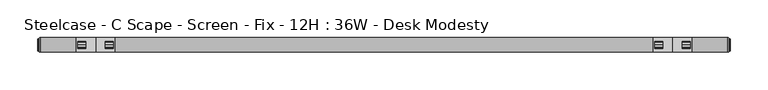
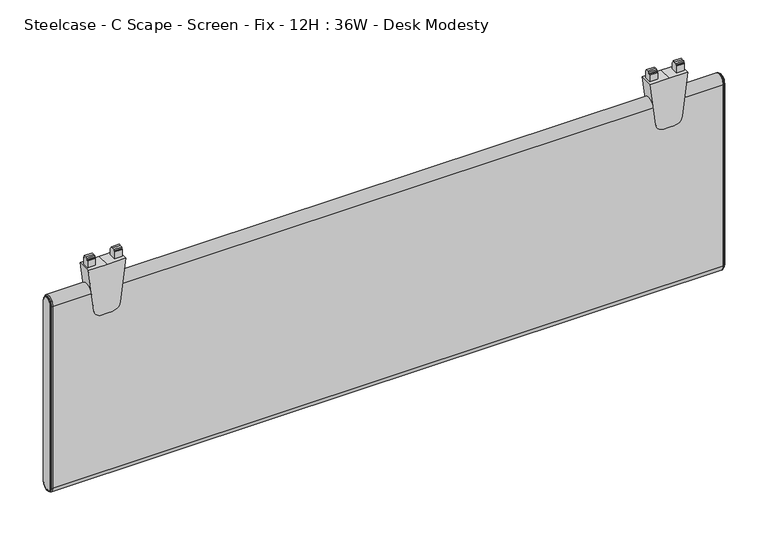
"""IFC4 building model written with IfcOpenShell, lengths in millimetres: furniture geometry, Steelcase - C Scape - Screen - Fix - 12H : 36W - Desk Modesty."""

from ifc_helpers import new_model, si_unit, point, frame, frame_2d, origin, place, context, project, spatial, polyline, circle_curve, ellipse_curve, trimmed, segment, composite_curve, outline, extrude, source, transform, mapped, element, save
from ifc_brep_helpers import plane_surface, cylinder_surface, revolved_surface, advanced_brep


def steelcase_c_scape_screen_fix_12h_36w_desk_modesty_49f25b2f(model_context):
    return source(origin(), model_context, "Body", "SolidModel", [
        extrude(outline(composite_curve([segment(polyline([(703.414888, 101.4730434), (703.414888, 76.2001674), (703.414888, 50.9272915), (643.0897579, 58.3341853)]), True, "CONTINUOUS"), segment(trimmed(circle_curve(frame_2d((644.4116282, 69.1001018)), 10.8467645), [point((643.0897579, 58.3341853))], [point((633.5648638, 69.1001018))], False, "CARTESIAN"), True, "CONTINUOUS"), segment(polyline([(633.5648638, 69.1001018), (633.5648638, 76.2001674), (633.5648638, 83.300233)]), True, "CONTINUOUS"), segment(trimmed(circle_curve(frame_2d((644.4116282, 83.300233)), 10.8467645), [point((633.5648638, 83.300233))], [point((643.0897579, 94.0661495))], False, "CARTESIAN"), True, "CONTINUOUS"), segment(polyline([(643.0897579, 94.0661495), (703.414888, 101.4730434)]), True, "CONTINUOUS")], self_intersect=False)), frame((0.0, -9.525, 0.0), z_axis=(0.0, 1.0, 0.0), x_axis=(0.0, 0.0, 1.0)), (0.0, 0.0, 1.0), 19.05),
        extrude(outline(polyline([(-4.5465975, 703.414888), (-4.5465975, 713.3208967), (-4.0139265, 714.2073252), (-2.9972008, 714.2073252), (-2.9972008, 716.4425812), (0.0, 716.534), (2.9972008, 716.4425812), (2.9972008, 714.2073252), (4.0139265, 714.2073252), (4.5465975, 713.3208967), (4.5465975, 703.414888), (0.0, 703.414888), (-4.5465975, 703.414888)])), frame((88.9267162, 0.0, 0.0), z_axis=(1.0, 0.0, 0.0), x_axis=(0.0, 1.0, 0.0)), (0.0, 0.0, 1.0), 10.7813187),
        extrude(outline(polyline([(-4.5465975, 703.414888), (-4.5465975, 713.3208967), (-4.0139265, 714.2073252), (-2.9972008, 714.2073252), (-2.9972008, 716.4425812), (0.0, 716.534), (2.9972008, 716.4425812), (2.9972008, 714.2073252), (4.0139265, 714.2073252), (4.5465975, 713.3208967), (4.5465975, 703.414888), (0.0, 703.414888), (-4.5465975, 703.414888)])), frame((52.6923, 0.0, 0.0), z_axis=(1.0, 0.0, 0.0), x_axis=(0.0, 1.0, 0.0)), (0.0, 0.0, 1.0), 10.7813187),
        extrude(outline(composite_curve([segment(polyline([(703.414888, 862.7107132), (703.414888, 837.4378372), (703.414888, 812.1649612), (643.0897579, 819.5718551)]), True, "CONTINUOUS"), segment(trimmed(circle_curve(frame_2d((644.4116282, 830.3377716)), 10.8467645), [point((643.0897579, 819.5718551))], [point((633.5648638, 830.3377716))], False, "CARTESIAN"), True, "CONTINUOUS"), segment(polyline([(633.5648638, 830.3377716), (633.5648638, 837.4378372), (633.5648638, 844.5379028)]), True, "CONTINUOUS"), segment(trimmed(circle_curve(frame_2d((644.4116282, 844.5379028)), 10.8467645), [point((633.5648638, 844.5379028))], [point((643.0897579, 855.3038193))], False, "CARTESIAN"), True, "CONTINUOUS"), segment(polyline([(643.0897579, 855.3038193), (703.414888, 862.7107132)]), True, "CONTINUOUS")], self_intersect=False)), frame((0.0, -9.525, 0.0), z_axis=(0.0, 1.0, 0.0), x_axis=(0.0, 0.0, 1.0)), (0.0, 0.0, 1.0), 19.05),
        extrude(outline(polyline([(-4.5465975, 703.414888), (-4.5465975, 713.3208967), (-4.0139265, 714.2073252), (-2.9972008, 714.2073252), (-2.9972008, 716.4425812), (0.0, 716.534), (2.9972008, 716.4425812), (2.9972008, 714.2073252), (4.0139265, 714.2073252), (4.5465975, 713.3208967), (4.5465975, 703.414888), (0.0, 703.414888), (-4.5465975, 703.414888)])), frame((850.164386, 0.0, 0.0), z_axis=(1.0, 0.0, 0.0), x_axis=(0.0, 1.0, 0.0)), (0.0, 0.0, 1.0), 10.7813187),
        extrude(outline(polyline([(-4.5465975, 703.414888), (-4.5465975, 713.3208967), (-4.0139265, 714.2073252), (-2.9972008, 714.2073252), (-2.9972008, 716.4425812), (0.0, 716.534), (2.9972008, 716.4425812), (2.9972008, 714.2073252), (4.0139265, 714.2073252), (4.5465975, 713.3208967), (4.5465975, 703.414888), (0.0, 703.414888), (-4.5465975, 703.414888)])), frame((813.9299698, 0.0, 0.0), z_axis=(1.0, 0.0, 0.0), x_axis=(0.0, 1.0, 0.0)), (0.0, 0.0, 1.0), 10.7813187),
        advanced_brep(
        [(910.8486613, -9.525, 668.909), (910.8486613, 9.525, 668.909), (910.8486613, 9.525, 408.559), (910.8486613, -9.525, 408.559), (913.6426613, 7.4929583, 668.909), (913.6426613, -7.4929583, 668.909), (913.6426613, -7.4929583, 408.559), (913.6426613, 7.4929583, 408.559), (913.1346545, -8.0009651, 668.909), (913.1346545, 8.0009651, 668.909), (911.8646613, 8.0009651, 668.909), (911.8646613, -8.0009651, 668.909), (911.8646613, -8.8204932, 668.909), (911.8646613, 8.8204932, 668.909), (911.8646613, -8.0009651, 408.559), (913.1346545, -8.0009651, 408.559), (911.8646613, -8.8204932, 408.559), (911.8646613, 8.0009651, 408.559), (913.1346545, 8.0009651, 408.559), (911.8646613, 8.8204932, 408.559)],
        [
            (0, 1, circle_curve(frame((910.8486613, 0.0, 668.909), z_axis=(-1.0, 0.0, 0.0), x_axis=(0.0, 1.0, 0.0)), 9.525)),
            (1, 2),
            (2, 3, circle_curve(frame((910.8486613, 0.0, 408.559), z_axis=(-1.0, 0.0, 0.0), x_axis=(0.0, -1.0, 0.0)), 9.525)),
            (3, 0),
            (4, 5, circle_curve(frame((913.6426613, 0.0, 668.909), z_axis=(1.0, 0.0, 0.0), x_axis=(0.0, 1.0, 0.0)), 7.4929583)),
            (5, 6),
            (6, 7, circle_curve(frame((913.6426613, 0.0, 408.559), z_axis=(1.0, 0.0, 0.0), x_axis=(0.0, -1.0, 0.0)), 7.4929583)),
            (7, 4),
            (8, 9, circle_curve(frame((913.1346545, 0.0, 668.909), z_axis=(-1.0, 0.0, 0.0), x_axis=(0.0, 1.0, 0.0)), 8.0009651)),
            (9, 10),
            (10, 11, circle_curve(frame((911.8646613, 0.0, 668.909), z_axis=(1.0, 0.0, 0.0), x_axis=(0.0, 1.0, 0.0)), 8.0009651)),
            (11, 8),
            (8, 5, circle_curve(frame((913.1346545, -7.4929583, 668.909), z_axis=(0.0, 0.0, 1.0), x_axis=(0.0, -1.0, 0.0)), 0.5080068)),
            (4, 9, circle_curve(frame((913.1346545, 7.4929583, 668.909), z_axis=(0.0, 0.0, 1.0), x_axis=(0.0, 1.0, 0.0)), 0.5080068)),
            (12, 13, circle_curve(frame((911.8646613, 0.0, 668.909), z_axis=(-1.0, 0.0, 0.0), x_axis=(0.0, 1.0, 0.0)), 8.8204932)),
            (13, 1, circle_curve(frame((910.7806211, 8.3420139, 668.909), z_axis=(0.0, 0.0, 1.0), x_axis=(0.0, 1.0, 0.0)), 1.1849411)),
            (0, 12, circle_curve(frame((910.7806211, -8.3420139, 668.909), z_axis=(0.0, 0.0, 1.0), x_axis=(0.0, -1.0, 0.0)), 1.1849411)),
            (11, 14),
            (14, 15),
            (15, 8),
            (15, 6, circle_curve(frame((913.1346545, -7.4929583, 408.559), z_axis=(0.0, 0.0, 1.0), x_axis=(0.0, -1.0, 0.0)), 0.5080068)),
            (3, 16, circle_curve(frame((910.7806211, -8.3420139, 408.559), z_axis=(0.0, 0.0, 1.0), x_axis=(0.0, -1.0, 0.0)), 1.1849411)),
            (16, 12),
            (14, 17, circle_curve(frame((911.8646613, 0.0, 408.559), z_axis=(1.0, 0.0, 0.0), x_axis=(0.0, -1.0, 0.0)), 8.0009651)),
            (17, 18),
            (18, 15, circle_curve(frame((913.1346545, 0.0, 408.559), z_axis=(-1.0, 0.0, 0.0), x_axis=(0.0, -1.0, 0.0)), 8.0009651)),
            (18, 7, circle_curve(frame((913.1346545, 7.4929583, 408.559), z_axis=(0.0, 0.0, -1.0), x_axis=(0.0, 1.0, 0.0)), 0.5080068)),
            (2, 19, circle_curve(frame((910.7806211, 8.3420139, 408.559), z_axis=(0.0, 0.0, -1.0), x_axis=(0.0, 1.0, 0.0)), 1.1849411)),
            (19, 16, circle_curve(frame((911.8646613, 0.0, 408.559), z_axis=(-1.0, 0.0, 0.0), x_axis=(0.0, -1.0, 0.0)), 8.8204932)),
            (9, 18),
            (17, 10),
            (13, 19),
        ],
        [
            plane_surface(frame((910.8486613, -6.3509705, 668.909), z_axis=(-1.0, 0.0, 0.0), x_axis=(0.0, 0.0, 1.0))),
            plane_surface(frame((913.6426613, -6.3509705, 668.909), z_axis=(1.0, 0.0, 0.0), x_axis=(0.0, 0.0, -1.0))),
            cylinder_surface(frame((910.8486613, 0.0, 668.909), z_axis=(1.0, 0.0, 0.0), x_axis=(0.0, 1.0, 0.0)), 8.0009651),
            revolved_surface(trimmed(ellipse_curve(frame((913.1346545, 7.4929583, 668.909), z_axis=(0.0, 0.0, -1.0), x_axis=(0.0, 1.0, 0.0)), 0.5080068, 0.5080068), [point((913.1346545, 8.0009651, 668.909))], [point((913.6426613, 7.4929583, 668.909))], True, "CARTESIAN"), (910.8486613, 0.0, 668.909), (1.0, 0.0, 0.0)),
            revolved_surface(trimmed(ellipse_curve(frame((910.7806211, 8.3420139, 668.909), z_axis=(0.0, 0.0, -1.0), x_axis=(0.0, 1.0, 0.0)), 1.1849411, 1.1849411), [point((910.8486613, 9.525, 668.909))], [point((911.8646613, 8.8204932, 668.909))], True, "CARTESIAN"), (910.8486613, 0.0, 668.909), (1.0, 0.0, 0.0)),
            plane_surface(frame((911.8646613, -8.0009651, 668.909), z_axis=(0.0, -1.0, 0.0), x_axis=(0.0, 0.0, -1.0))),
            cylinder_surface(frame((913.1346545, -7.4929583, 668.909), z_axis=(0.0, 0.0, 1.0), x_axis=(0.0, -1.0, 0.0)), 0.5080068),
            cylinder_surface(frame((910.7806211, -8.3420139, 668.909), z_axis=(0.0, 0.0, 1.0), x_axis=(0.0, -1.0, 0.0)), 1.1849411),
            cylinder_surface(frame((910.8486613, 0.0, 408.559), z_axis=(1.0, 0.0, 0.0), x_axis=(0.0, -1.0, 0.0)), 8.0009651),
            revolved_surface(trimmed(ellipse_curve(frame((913.1346545, -7.4929583, 408.559), z_axis=(0.0, 0.0, 1.0), x_axis=(0.0, -1.0, 0.0)), 0.5080068, 0.5080068), [point((913.1346545, -8.0009651, 408.559))], [point((913.6426613, -7.4929583, 408.559))], True, "CARTESIAN"), (910.8486613, 0.0, 408.559), (1.0, 0.0, 0.0)),
            revolved_surface(trimmed(ellipse_curve(frame((910.7806211, -8.3420139, 408.559), z_axis=(0.0, 0.0, 1.0), x_axis=(0.0, -1.0, 0.0)), 1.1849411, 1.1849411), [point((910.8486613, -9.525, 408.559))], [point((911.8646613, -8.8204932, 408.559))], True, "CARTESIAN"), (910.8486613, 0.0, 408.559), (1.0, 0.0, 0.0)),
            plane_surface(frame((911.8646613, 8.0009651, 408.559), z_axis=(0.0, 1.0, 0.0), x_axis=(0.0, 0.0, 1.0))),
            cylinder_surface(frame((913.1346545, 7.4929583, 408.559), z_axis=(0.0, 0.0, -1.0), x_axis=(0.0, 1.0, 0.0)), 0.5080068),
            cylinder_surface(frame((910.7806211, 8.3420139, 408.559), z_axis=(0.0, 0.0, -1.0), x_axis=(0.0, 1.0, 0.0)), 1.1849411),
            plane_surface(frame((911.8646613, 8.8204932, 408.559), z_axis=(1.0, 0.0, 0.0), x_axis=(0.0, 0.0, 1.0))),
        ],
        [
            (0, [[1, 2, 3, 4]]),
            (1, [[5, 6, 7, 8]]),
            (2, [[9, 10, 11, 12]]),
            (3, [[-9, 13, -5, 14]]),
            (4, [[15, 16, -1, 17]]),
            (5, [[-12, 18, 19, 20]]),
            (6, [[-13, -20, 21, -6]]),
            (7, [[-17, -4, 22, 23]]),
            (8, [[-19, 24, 25, 26]]),
            (9, [[-21, -26, 27, -7]]),
            (10, [[-22, -3, 28, 29]]),
            (11, [[-10, 30, -25, 31]]),
            (12, [[-14, -8, -27, -30]]),
            (13, [[-16, 32, -28, -2]]),
            (14, [[-15, -23, -29, -32], [-11, -31, -24, -18]]),
        ],
    ),
        advanced_brep(
        [(2.7940155, 9.525, 668.909), (2.7940155, -9.525, 668.909), (2.7940155, -9.525, 408.559), (2.7940155, 9.525, 408.559), (0.0, -7.4929583, 668.909), (0.0, 7.4929583, 668.909), (0.0, 7.4929583, 408.559), (0.0, -7.4929583, 408.559), (1.778, 8.8204932, 668.909), (1.778, -8.8204932, 668.909), (0.5080068, -8.0009651, 668.909), (0.5080068, 8.0009651, 668.909), (1.778, -8.0009651, 668.909), (1.778, 8.0009651, 668.909), (1.778, -8.8204932, 408.559), (0.5080068, -8.0009651, 408.559), (1.778, -8.0009651, 408.559), (1.778, 8.8204932, 408.559), (0.5080068, 8.0009651, 408.559), (1.778, 8.0009651, 408.559)],
        [
            (0, 1, circle_curve(frame((2.7940155, 0.0, 668.909), z_axis=(1.0, 0.0, 0.0), x_axis=(0.0, 1.0, 0.0)), 9.525)),
            (1, 2),
            (2, 3, circle_curve(frame((2.7940155, 0.0, 408.559), z_axis=(1.0, 0.0, 0.0), x_axis=(0.0, -1.0, 0.0)), 9.525)),
            (3, 0),
            (4, 5, circle_curve(frame((0.0, 0.0, 668.909), z_axis=(-1.0, 0.0, 0.0), x_axis=(0.0, 1.0, 0.0)), 7.4929583)),
            (5, 6),
            (6, 7, circle_curve(frame((0.0, 0.0, 408.559), z_axis=(-1.0, 0.0, 0.0), x_axis=(0.0, -1.0, 0.0)), 7.4929583)),
            (7, 4),
            (0, 8, circle_curve(frame((2.8620402, 8.3420139, 668.909), z_axis=(0.0, 0.0, 1.0), x_axis=(0.0, -1.0, 0.0)), 1.1849411)),
            (8, 9, circle_curve(frame((1.778, 0.0, 668.909), z_axis=(1.0, 0.0, 0.0), x_axis=(0.0, 1.0, 0.0)), 8.8204932)),
            (9, 1, circle_curve(frame((2.8620402, -8.3420139, 668.909), z_axis=(0.0, 0.0, 1.0), x_axis=(0.0, 1.0, 0.0)), 1.1849411)),
            (10, 11, circle_curve(frame((0.5080068, 0.0, 668.909), z_axis=(-1.0, 0.0, 0.0), x_axis=(0.0, 1.0, 0.0)), 8.0009651)),
            (11, 5, circle_curve(frame((0.5080068, 7.4929583, 668.909), z_axis=(0.0, 0.0, 1.0), x_axis=(0.0, -1.0, 0.0)), 0.5080068)),
            (4, 10, circle_curve(frame((0.5080068, -7.4929583, 668.909), z_axis=(0.0, 0.0, 1.0), x_axis=(0.0, 1.0, 0.0)), 0.5080068)),
            (10, 12),
            (12, 13, circle_curve(frame((1.778, 0.0, 668.909), z_axis=(-1.0, 0.0, 0.0), x_axis=(0.0, 1.0, 0.0)), 8.0009651)),
            (13, 11),
            (9, 14),
            (14, 2, circle_curve(frame((2.8620402, -8.3420139, 408.559), z_axis=(0.0, 0.0, 1.0), x_axis=(0.0, 1.0, 0.0)), 1.1849411)),
            (7, 15, circle_curve(frame((0.5080068, -7.4929583, 408.559), z_axis=(0.0, 0.0, 1.0), x_axis=(0.0, 1.0, 0.0)), 0.5080068)),
            (15, 10),
            (15, 16),
            (16, 12),
            (14, 17, circle_curve(frame((1.778, 0.0, 408.559), z_axis=(1.0, 0.0, 0.0), x_axis=(0.0, -1.0, 0.0)), 8.8204932)),
            (17, 3, circle_curve(frame((2.8620402, 8.3420139, 408.559), z_axis=(0.0, 0.0, -1.0), x_axis=(0.0, -1.0, 0.0)), 1.1849411)),
            (6, 18, circle_curve(frame((0.5080068, 7.4929583, 408.559), z_axis=(0.0, 0.0, -1.0), x_axis=(0.0, -1.0, 0.0)), 0.5080068)),
            (18, 15, circle_curve(frame((0.5080068, 0.0, 408.559), z_axis=(-1.0, 0.0, 0.0), x_axis=(0.0, -1.0, 0.0)), 8.0009651)),
            (18, 19),
            (19, 16, circle_curve(frame((1.778, 0.0, 408.559), z_axis=(-1.0, 0.0, 0.0), x_axis=(0.0, -1.0, 0.0)), 8.0009651)),
            (8, 17),
            (19, 13),
            (11, 18),
        ],
        [
            plane_surface(frame((2.7940155, -6.3509705, 668.909), z_axis=(1.0, 0.0, 0.0), x_axis=(0.0, 0.0, -1.0))),
            plane_surface(frame((0.0, -6.3509705, 668.909), z_axis=(-1.0, 0.0, 0.0), x_axis=(0.0, 0.0, 1.0))),
            revolved_surface(trimmed(ellipse_curve(frame((2.8620402, 8.3420139, 668.909), z_axis=(0.0, 0.0, -1.0), x_axis=(0.0, -1.0, 0.0)), 1.1849411, 1.1849411), [point((1.778, 8.8204932, 668.909))], [point((2.794, 9.525, 668.909))], True, "CARTESIAN"), (2.794, 0.0, 668.909), (1.0, 0.0, 0.0)),
            revolved_surface(trimmed(ellipse_curve(frame((0.5080068, 7.4929583, 668.909), z_axis=(0.0, 0.0, -1.0), x_axis=(0.0, -1.0, 0.0)), 0.5080068, 0.5080068), [point((0.0, 7.4929583, 668.909))], [point((0.5080068, 8.0009651, 668.909))], True, "CARTESIAN"), (2.794, 0.0, 668.909), (1.0, 0.0, 0.0)),
            cylinder_surface(frame((2.794, 0.0, 668.909), z_axis=(1.0, 0.0, 0.0), x_axis=(0.0, 1.0, 0.0)), 8.0009651),
            cylinder_surface(frame((2.8620402, -8.3420139, 668.909), z_axis=(0.0, 0.0, 1.0), x_axis=(0.0, 1.0, 0.0)), 1.1849411),
            cylinder_surface(frame((0.5080068, -7.4929583, 668.909), z_axis=(0.0, 0.0, 1.0), x_axis=(0.0, 1.0, 0.0)), 0.5080068),
            plane_surface(frame((0.5080068, -8.0009651, 668.909), z_axis=(0.0, -1.0, 0.0), x_axis=(0.0, 0.0, -1.0))),
            revolved_surface(trimmed(ellipse_curve(frame((2.8620402, -8.3420139, 408.559), z_axis=(0.0, 0.0, 1.0), x_axis=(0.0, 1.0, 0.0)), 1.1849411, 1.1849411), [point((1.778, -8.8204932, 408.559))], [point((2.794, -9.525, 408.559))], True, "CARTESIAN"), (2.794, 0.0, 408.559), (1.0, 0.0, 0.0)),
            revolved_surface(trimmed(ellipse_curve(frame((0.5080068, -7.4929583, 408.559), z_axis=(0.0, 0.0, 1.0), x_axis=(0.0, 1.0, 0.0)), 0.5080068, 0.5080068), [point((0.0, -7.4929583, 408.559))], [point((0.5080068, -8.0009651, 408.559))], True, "CARTESIAN"), (2.794, 0.0, 408.559), (1.0, 0.0, 0.0)),
            cylinder_surface(frame((2.794, 0.0, 408.559), z_axis=(1.0, 0.0, 0.0), x_axis=(0.0, -1.0, 0.0)), 8.0009651),
            plane_surface(frame((1.778, 8.0009651, 408.559), z_axis=(-1.0, 0.0, 0.0), x_axis=(0.0, 0.0, 1.0))),
            cylinder_surface(frame((2.8620402, 8.3420139, 408.559), z_axis=(0.0, 0.0, -1.0), x_axis=(0.0, -1.0, 0.0)), 1.1849411),
            cylinder_surface(frame((0.5080068, 7.4929583, 408.559), z_axis=(0.0, 0.0, -1.0), x_axis=(0.0, -1.0, 0.0)), 0.5080068),
            plane_surface(frame((0.5080068, 8.0009651, 408.559), z_axis=(0.0, 1.0, 0.0), x_axis=(0.0, 0.0, 1.0))),
        ],
        [
            (0, [[1, 2, 3, 4]]),
            (1, [[5, 6, 7, 8]]),
            (2, [[-1, 9, 10, 11]]),
            (3, [[12, 13, -5, 14]]),
            (4, [[-12, 15, 16, 17]]),
            (5, [[-11, 18, 19, -2]]),
            (6, [[-14, -8, 20, 21]]),
            (7, [[-15, -21, 22, 23]]),
            (8, [[-19, 24, 25, -3]]),
            (9, [[-20, -7, 26, 27]]),
            (10, [[-22, -27, 28, 29]]),
            (11, [[-10, 30, -24, -18], [-16, -23, -29, 31]]),
            (12, [[-9, -4, -25, -30]]),
            (13, [[-13, 32, -26, -6]]),
            (14, [[-17, -31, -28, -32]]),
        ],
    ),
        extrude(outline(composite_curve([segment(trimmed(circle_curve(frame_2d((0.0, 668.909)), 9.525), [point((-9.525, 668.909))], [point((9.525, 668.909))], False, "CARTESIAN"), True, "CONTINUOUS"), segment(polyline([(9.525, 668.909), (9.525, 408.559)]), True, "CONTINUOUS"), segment(trimmed(circle_curve(frame_2d((0.0, 408.559)), 9.525), [point((9.525, 408.559))], [point((-9.525, 408.559))], False, "CARTESIAN"), True, "CONTINUOUS"), segment(polyline([(-9.525, 408.559), (-9.525, 668.909)]), True, "CONTINUOUS")], self_intersect=False)), frame((2.794, 0.0, 0.0), z_axis=(1.0, 0.0, 0.0), x_axis=(0.0, 1.0, 0.0)), (0.0, 0.0, 1.0), 908.0546613),
    ])


if __name__ == "__main__":
    model = new_model("IFC4")
    model_context = context("Model", 3, world=origin())
    ifc_project = project(units=[si_unit("LENGTHUNIT", "METRE", prefix="MILLI")], contexts=[model_context])
    site = spatial("IfcSite", under=ifc_project)
    building = spatial("IfcBuilding", under=site)
    placement = place(None, origin())
    steelcase_c_scape_screen_fix_12h_36w_desk_modesty_shape = steelcase_c_scape_screen_fix_12h_36w_desk_modesty_49f25b2f(model_context)
    element("IfcFurniture", 1, ObjectType="Steelcase - C Scape - Screen - Fix - 12H : 36W - Desk Modesty", at=placement, inside=building, context=model_context, shape_type="MappedRepresentation", body=[
        mapped(steelcase_c_scape_screen_fix_12h_36w_desk_modesty_shape, transform((0.0, 0.0, 0.0), x_axis=(1.0, 0.0, 0.0), y_axis=(0.0, 1.0, 0.0), z_axis=(0.0, 0.0, 1.0))),
    ])
    save(model, "model.ifc")
